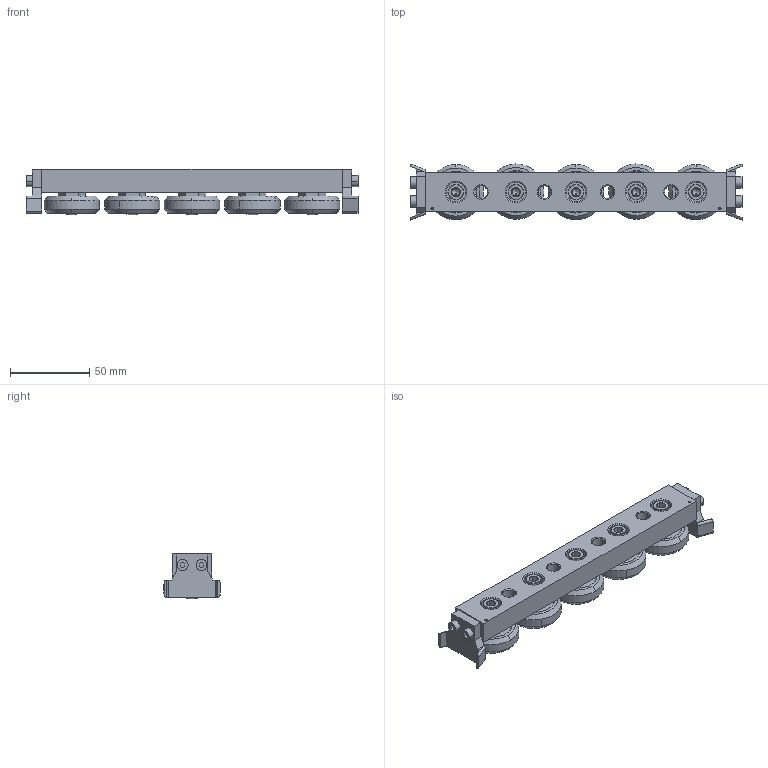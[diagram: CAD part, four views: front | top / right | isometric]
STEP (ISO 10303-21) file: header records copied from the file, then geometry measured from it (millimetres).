
FILE_DESCRIPTION (( 'STEP AP203' ), '1' );
FILE_NAME ('L1943.CSW43-190-2ZU.step', '2019-03-13T08:17:51', ( '' ), ( '' ), 'SwSTEP 2.0', 'SolidWorks 2017', '' );
FILE_SCHEMA (( 'CONFIG_CONTROL_DESIGN' ));
Length unit declared in the file: millimetre
Products named in the file (6): Part2; L1943.CSW43-190-2ZU; Part8; Part1_L1943.CSW43-190-2ZU; Part3; Part7
Assembly tree (13 placements, depth 2):
  L1943.CSW43-190-2ZU
    Part1_L1943.CSW43-190-2ZU
    Part8  x5
    Part2  x3
    Part3  x2
    Part7  x2
Bounding box: 210 x 35.47 x 28.88 mm (x, y, z)
Volume: 120995.5 mm3; surface area: 42582.7 mm2
Topology: 13 solids, 13 shells, 491 faces, 1089 edges, 662 vertices
Faces by surface type: plane 219, cone 161, cylinder 94, torus 10, bspline 7
Entity records: 7538 total; most frequent: CARTESIAN_POINT 1380, DIRECTION 1193, ORIENTED_EDGE 1026, EDGE_CURVE 513, AXIS2_PLACEMENT_3D 460, VERTEX_POINT 323, EDGE_LOOP 280, VECTOR 273
